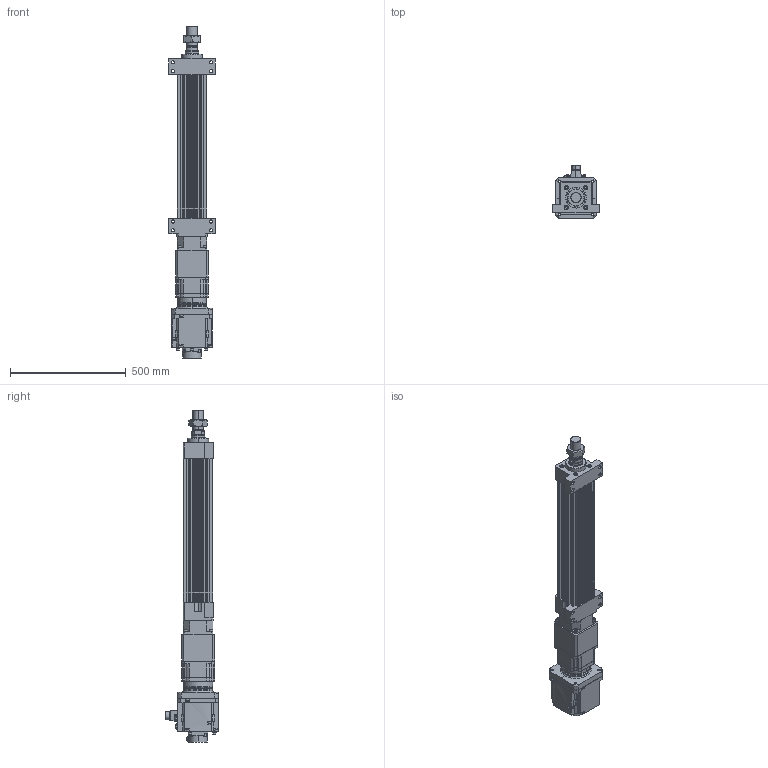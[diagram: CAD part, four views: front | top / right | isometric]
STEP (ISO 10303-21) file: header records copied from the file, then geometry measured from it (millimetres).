
FILE_DESCRIPTION (( 'STEP AP203' ), '1' );
FILE_NAME ('HES130NS(FS)(HS)-S400-W020G00-M-FFB.STEP', '2026-06-10T06:16:06', ( 'tms' ), ( '' ), 'SwSTEP 2.0', 'SolidWorks 2013', '' );
FILE_SCHEMA (( 'CONFIG_CONTROL_DESIGN' ));
Length unit declared in the file: millimetre
Products named in the file (9): M45X1.5P; AB1422; HES130-S-G142; HES130NS(FS)(HS)-S400-W020G00-M-FFB; AB1421; HES130-FFB-400; HG-SR202B; AB1423; HES130-M-ROD-400
Assembly tree (8 placements, depth 2):
  HES130NS(FS)(HS)-S400-W020G00-M-FFB
    HES130-FFB-400
    HES130-M-ROD-400
    M45X1.5P
    HES130-S-G142
    AB1421
    AB1422
    AB1423
    HG-SR202B
Bounding box: 200 x 228.85 x 1435 mm (x, y, z)
Volume: 13677245.6 mm3; surface area: 1638600.5 mm2
Topology: 5 solids, 19 shells, 1547 faces, 4010 edges, 2610 vertices
Faces by surface type: cylinder 694, plane 619, cone 152, bspline 76, torus 6
Entity records: 56386 total; most frequent: CARTESIAN_POINT 16969, DIRECTION 8246, ORIENTED_EDGE 7946, EDGE_CURVE 3995, AXIS2_PLACEMENT_3D 3104, VERTEX_POINT 2610, LINE 2038, VECTOR 2038
